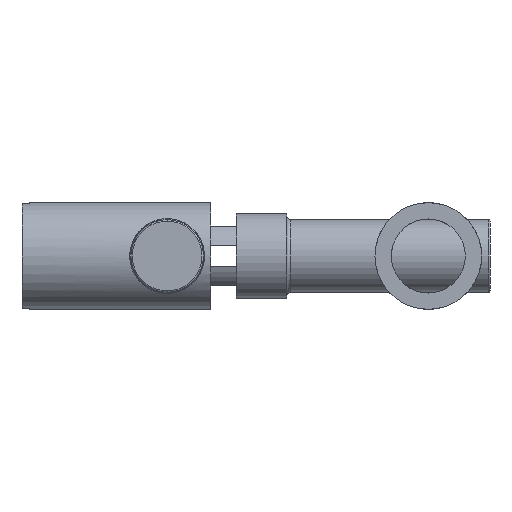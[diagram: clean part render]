
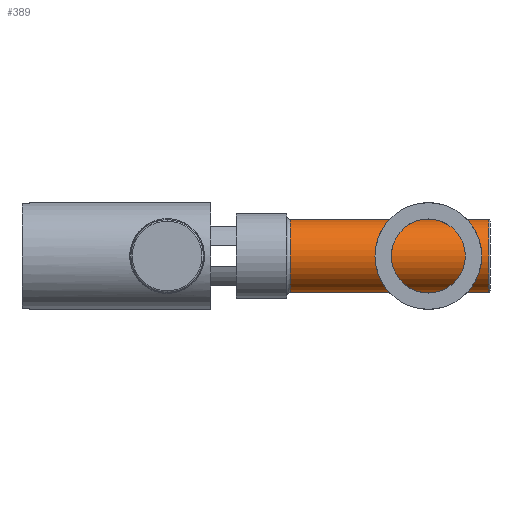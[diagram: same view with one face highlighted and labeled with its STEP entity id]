
A CAD part, left-side view. The second image highlights one B-rep face of the part: STEP entity #389.
In plain terms, the highlighted cylindrical face has radius 5 mm (diameter 10 mm), a partial arc.
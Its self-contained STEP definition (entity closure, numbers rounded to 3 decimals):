
#18 = DIRECTION ( 'NONE',  ( 0., 0., -1. ) ) ;
#92 = DIRECTION ( 'NONE',  ( 1., 0., 0. ) ) ;
#145 = FACE_OUTER_BOUND ( 'NONE', #864, .T. ) ;
#183 = CARTESIAN_POINT ( 'NONE',  ( 28., 0., -5. ) ) ;
#288 = EDGE_CURVE ( 'NONE', #3155, #2631, #581, .T. ) ;
#389 = ADVANCED_FACE ( 'NONE', ( #145 ), #714, .T. ) ;
#505 = AXIS2_PLACEMENT_3D ( 'NONE', #2520, #2208, #795 ) ;
#581 = CIRCLE ( 'NONE', #771, 5. ) ;
#714 = CYLINDRICAL_SURFACE ( 'NONE', #505, 5. ) ;
#729 = EDGE_CURVE ( 'NONE', #2993, #981, #2019, .T. ) ;
#771 = AXIS2_PLACEMENT_3D ( 'NONE', #2593, #92, #2670 ) ;
#795 = DIRECTION ( 'NONE',  ( 0., 0., 1. ) ) ;
#808 = LINE ( 'NONE', #183, #2913 ) ;
#864 = EDGE_LOOP ( 'NONE', ( #1414, #2281, #2371, #3091 ) ) ;
#946 = EDGE_CURVE ( 'NONE', #2993, #2631, #808, .T. ) ;
#981 = VERTEX_POINT ( 'NONE', #1910 ) ;
#1017 = AXIS2_PLACEMENT_3D ( 'NONE', #3460, #1731, #18 ) ;
#1414 = ORIENTED_EDGE ( 'NONE', *, *, #946, .F. ) ;
#1731 = DIRECTION ( 'NONE',  ( -1., 0., 0. ) ) ;
#1828 = CARTESIAN_POINT ( 'NONE',  ( 0.5, 0., -5. ) ) ;
#1900 = DIRECTION ( 'NONE',  ( -1., 0., 0. ) ) ;
#1910 = CARTESIAN_POINT ( 'NONE',  ( 27.8, 0., 5. ) ) ;
#2019 = CIRCLE ( 'NONE', #1017, 5. ) ;
#2208 = DIRECTION ( 'NONE',  ( -1., 0., 0. ) ) ;
#2281 = ORIENTED_EDGE ( 'NONE', *, *, #729, .T. ) ;
#2371 = ORIENTED_EDGE ( 'NONE', *, *, #2643, .T. ) ;
#2406 = CARTESIAN_POINT ( 'NONE',  ( 28., 0., 5. ) ) ;
#2520 = CARTESIAN_POINT ( 'NONE',  ( 28., 0., 0. ) ) ;
#2593 = CARTESIAN_POINT ( 'NONE',  ( 0.5, 0., 0. ) ) ;
#2631 = VERTEX_POINT ( 'NONE', #1828 ) ;
#2643 = EDGE_CURVE ( 'NONE', #981, #3155, #3127, .T. ) ;
#2670 = DIRECTION ( 'NONE',  ( 0., 0., 1. ) ) ;
#2867 = CARTESIAN_POINT ( 'NONE',  ( 27.8, 0., -5. ) ) ;
#2913 = VECTOR ( 'NONE', #1900, 1000. ) ;
#2963 = DIRECTION ( 'NONE',  ( -1., 0., 0. ) ) ;
#2993 = VERTEX_POINT ( 'NONE', #2867 ) ;
#3091 = ORIENTED_EDGE ( 'NONE', *, *, #288, .T. ) ;
#3127 = LINE ( 'NONE', #2406, #3318 ) ;
#3155 = VERTEX_POINT ( 'NONE', #3509 ) ;
#3318 = VECTOR ( 'NONE', #2963, 1000. ) ;
#3460 = CARTESIAN_POINT ( 'NONE',  ( 27.8, 0., 0. ) ) ;
#3509 = CARTESIAN_POINT ( 'NONE',  ( 0.5, 0., 5. ) ) ;
